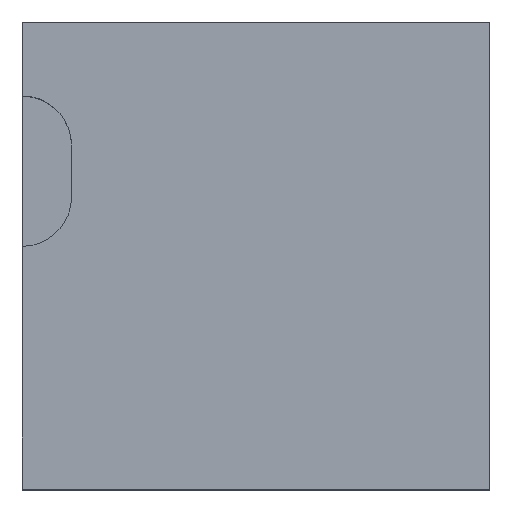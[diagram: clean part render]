
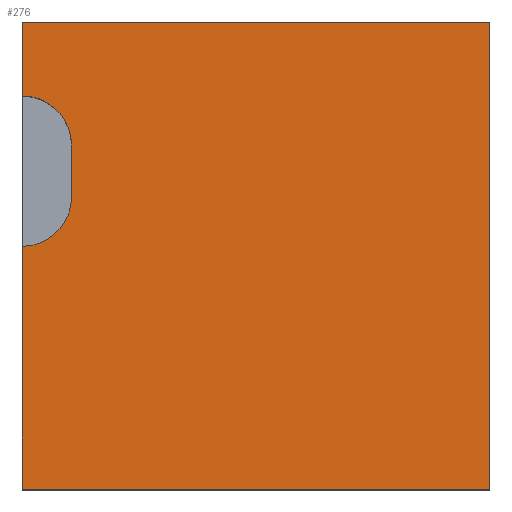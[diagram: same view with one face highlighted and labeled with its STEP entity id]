
A CAD part, top view. The second image highlights one B-rep face of the part: STEP entity #276.
In plain terms, the highlighted planar face has unit normal (0, 0, 1).
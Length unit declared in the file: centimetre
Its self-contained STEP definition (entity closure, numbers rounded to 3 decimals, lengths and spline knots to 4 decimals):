
#9 = CARTESIAN_POINT ( 'NONE',  ( 105.0416, 736.6243, 1000. ) ) ;
#15 = DIRECTION ( 'NONE',  ( 0., 1., 0. ) ) ;
#20 = EDGE_CURVE ( 'NONE', #810, #170, #150, .T. ) ;
#40 = VECTOR ( 'NONE', #349, 100. ) ;
#42 = DIRECTION ( 'NONE',  ( -1., 0., 0. ) ) ;
#45 = CARTESIAN_POINT ( 'NONE',  ( 0., 841.6659, 1000. ) ) ;
#49 = CIRCLE ( 'NONE', #489, 105.0416 ) ;
#50 = CARTESIAN_POINT ( 'NONE',  ( 0., 1000., 1000. ) ) ;
#61 = ORIENTED_EDGE ( 'NONE', *, *, #384, .T. ) ;
#73 = LINE ( 'NONE', #203, #545 ) ;
#91 = EDGE_CURVE ( 'NONE', #678, #220, #635, .T. ) ;
#95 = DIRECTION ( 'NONE',  ( 0., 0., 1. ) ) ;
#105 = VECTOR ( 'NONE', #405, 100. ) ;
#128 = EDGE_LOOP ( 'NONE', ( #667, #218, #682, #61, #720, #386, #461, #584 ) ) ;
#139 = LINE ( 'NONE', #731, #105 ) ;
#150 = LINE ( 'NONE', #9, #770 ) ;
#151 = CARTESIAN_POINT ( 'NONE',  ( 105.0416, 624.8824, 1000. ) ) ;
#170 = VERTEX_POINT ( 'NONE', #370 ) ;
#182 = EDGE_CURVE ( 'NONE', #599, #810, #814, .T. ) ;
#203 = CARTESIAN_POINT ( 'NONE',  ( 1000., 1000., 1000. ) ) ;
#210 = LINE ( 'NONE', #610, #40 ) ;
#218 = ORIENTED_EDGE ( 'NONE', *, *, #234, .T. ) ;
#220 = VERTEX_POINT ( 'NONE', #590 ) ;
#234 = EDGE_CURVE ( 'NONE', #599, #735, #786, .T. ) ;
#266 = CARTESIAN_POINT ( 'NONE',  ( 0., 0., 1000. ) ) ;
#271 = DIRECTION ( 'NONE',  ( 0., 1., 0. ) ) ;
#276 = ADVANCED_FACE ( 'NONE', ( #521 ), #702, .T. ) ;
#299 = VERTEX_POINT ( 'NONE', #45 ) ;
#321 = DIRECTION ( 'NONE',  ( 0., 0., 1. ) ) ;
#348 = EDGE_CURVE ( 'NONE', #170, #299, #49, .T. ) ;
#349 = DIRECTION ( 'NONE',  ( 0., -1., 0. ) ) ;
#351 = AXIS2_PLACEMENT_3D ( 'NONE', #752, #95, #693 ) ;
#370 = CARTESIAN_POINT ( 'NONE',  ( 105.0416, 736.6243, 1000. ) ) ;
#384 = EDGE_CURVE ( 'NONE', #416, #678, #73, .T. ) ;
#386 = ORIENTED_EDGE ( 'NONE', *, *, #852, .T. ) ;
#392 = DIRECTION ( 'NONE',  ( 0., 0., 1. ) ) ;
#405 = DIRECTION ( 'NONE',  ( 1., 0., 0. ) ) ;
#416 = VERTEX_POINT ( 'NONE', #533 ) ;
#461 = ORIENTED_EDGE ( 'NONE', *, *, #348, .F. ) ;
#463 = VECTOR ( 'NONE', #582, 100. ) ;
#468 = CARTESIAN_POINT ( 'NONE',  ( 1000., 1000., 1000. ) ) ;
#489 = AXIS2_PLACEMENT_3D ( 'NONE', #511, #321, #854 ) ;
#490 = EDGE_CURVE ( 'NONE', #735, #416, #139, .T. ) ;
#511 = CARTESIAN_POINT ( 'NONE',  ( 0., 736.6243, 1000. ) ) ;
#521 = FACE_OUTER_BOUND ( 'NONE', #128, .T. ) ;
#533 = CARTESIAN_POINT ( 'NONE',  ( 1000., 0., 1000. ) ) ;
#545 = VECTOR ( 'NONE', #15, 100. ) ;
#580 = CARTESIAN_POINT ( 'NONE',  ( 0., 519.8408, 1000. ) ) ;
#582 = DIRECTION ( 'NONE',  ( 0., -1., 0. ) ) ;
#584 = ORIENTED_EDGE ( 'NONE', *, *, #20, .F. ) ;
#590 = CARTESIAN_POINT ( 'NONE',  ( 0., 1000., 1000. ) ) ;
#599 = VERTEX_POINT ( 'NONE', #580 ) ;
#610 = CARTESIAN_POINT ( 'NONE',  ( 0., 1000., 1000. ) ) ;
#620 = CARTESIAN_POINT ( 'NONE',  ( 0., 1000., 1000. ) ) ;
#635 = LINE ( 'NONE', #620, #724 ) ;
#667 = ORIENTED_EDGE ( 'NONE', *, *, #182, .F. ) ;
#678 = VERTEX_POINT ( 'NONE', #468 ) ;
#682 = ORIENTED_EDGE ( 'NONE', *, *, #490, .T. ) ;
#693 = DIRECTION ( 'NONE',  ( 1., 0., 0. ) ) ;
#702 = PLANE ( 'NONE',  #756 ) ;
#715 = DIRECTION ( 'NONE',  ( 1., 0., 0. ) ) ;
#720 = ORIENTED_EDGE ( 'NONE', *, *, #91, .T. ) ;
#724 = VECTOR ( 'NONE', #42, 100. ) ;
#731 = CARTESIAN_POINT ( 'NONE',  ( 0., 0., 1000. ) ) ;
#735 = VERTEX_POINT ( 'NONE', #266 ) ;
#752 = CARTESIAN_POINT ( 'NONE',  ( 0., 624.8824, 1000. ) ) ;
#756 = AXIS2_PLACEMENT_3D ( 'NONE', #795, #392, #715 ) ;
#770 = VECTOR ( 'NONE', #271, 100. ) ;
#786 = LINE ( 'NONE', #50, #463 ) ;
#795 = CARTESIAN_POINT ( 'NONE',  ( 0., 0., 1000. ) ) ;
#810 = VERTEX_POINT ( 'NONE', #151 ) ;
#814 = CIRCLE ( 'NONE', #351, 105.0416 ) ;
#852 = EDGE_CURVE ( 'NONE', #220, #299, #210, .T. ) ;
#854 = DIRECTION ( 'NONE',  ( -1., 0., 0. ) ) ;
